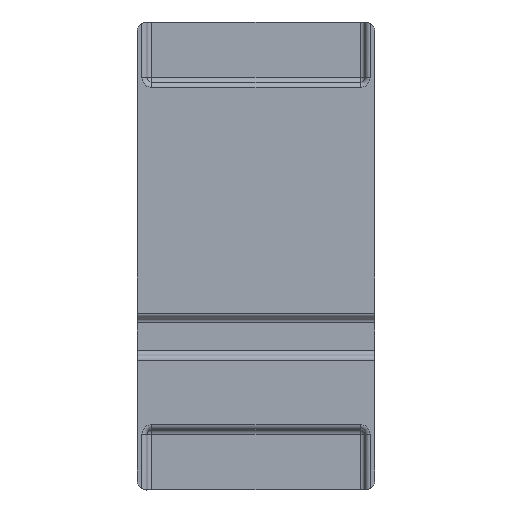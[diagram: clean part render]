
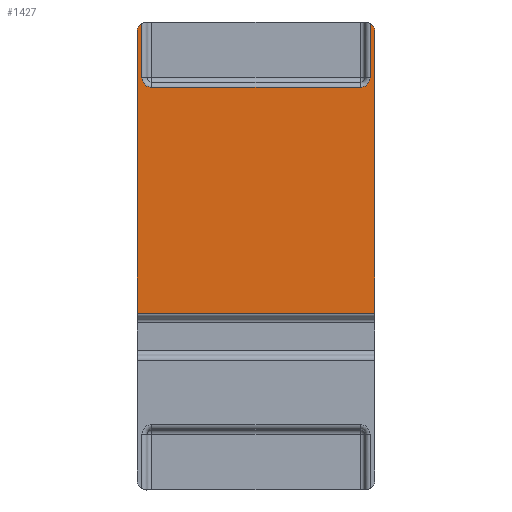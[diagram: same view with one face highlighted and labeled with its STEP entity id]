
A CAD part, front view. The second image highlights one B-rep face of the part: STEP entity #1427.
In plain terms, the highlighted planar face has unit normal (0, -1, 0).
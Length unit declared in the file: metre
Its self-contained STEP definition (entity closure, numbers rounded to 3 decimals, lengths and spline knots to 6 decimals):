
#72=CIRCLE('',#1571,0.004);
#73=CIRCLE('',#1572,0.004);
#74=CIRCLE('',#1573,0.004);
#75=CIRCLE('',#1574,0.004);
#348=ORIENTED_EDGE('',*,*,#680,.T.);
#349=ORIENTED_EDGE('',*,*,#708,.T.);
#350=ORIENTED_EDGE('',*,*,#709,.T.);
#351=ORIENTED_EDGE('',*,*,#710,.T.);
#352=ORIENTED_EDGE('',*,*,#642,.F.);
#353=ORIENTED_EDGE('',*,*,#711,.F.);
#354=ORIENTED_EDGE('',*,*,#622,.T.);
#355=ORIENTED_EDGE('',*,*,#712,.T.);
#356=ORIENTED_EDGE('',*,*,#713,.T.);
#357=ORIENTED_EDGE('',*,*,#714,.T.);
#622=EDGE_CURVE('',#831,#829,#961,.T.);
#642=EDGE_CURVE('',#846,#847,#972,.T.);
#680=EDGE_CURVE('',#876,#877,#994,.T.);
#708=EDGE_CURVE('',#877,#888,#72,.F.);
#709=EDGE_CURVE('',#888,#889,#1008,.F.);
#710=EDGE_CURVE('',#889,#847,#73,.T.);
#711=EDGE_CURVE('',#831,#846,#1009,.T.);
#712=EDGE_CURVE('',#829,#890,#74,.T.);
#713=EDGE_CURVE('',#890,#891,#1010,.T.);
#714=EDGE_CURVE('',#891,#876,#75,.F.);
#829=VERTEX_POINT('',#2220);
#831=VERTEX_POINT('',#2223);
#846=VERTEX_POINT('',#2259);
#847=VERTEX_POINT('',#2260);
#876=VERTEX_POINT('',#2332);
#877=VERTEX_POINT('',#2333);
#888=VERTEX_POINT('',#2389);
#889=VERTEX_POINT('',#2391);
#890=VERTEX_POINT('',#2395);
#891=VERTEX_POINT('',#2397);
#961=LINE('',#2222,#1089);
#972=LINE('',#2258,#1100);
#994=LINE('',#2331,#1122);
#1008=LINE('',#2390,#1136);
#1009=LINE('',#2393,#1137);
#1010=LINE('',#2396,#1138);
#1089=VECTOR('',#1738,1.);
#1100=VECTOR('',#1769,1.);
#1122=VECTOR('',#1833,1.);
#1136=VECTOR('',#1911,1.);
#1137=VECTOR('',#1914,1.);
#1138=VECTOR('',#1917,1.);
#1209=EDGE_LOOP('',(#348,#349,#350,#351,#352,#353,#354,#355,#356,#357));
#1303=FACE_BOUND('',#1209,.T.);
#1377=PLANE('',#1570);
#1427=ADVANCED_FACE('',(#1303),#1377,.T.);
#1570=AXIS2_PLACEMENT_3D('',#2387,#1907,#1908);
#1571=AXIS2_PLACEMENT_3D('',#2388,#1909,#1910);
#1572=AXIS2_PLACEMENT_3D('',#2392,#1912,#1913);
#1573=AXIS2_PLACEMENT_3D('',#2394,#1915,#1916);
#1574=AXIS2_PLACEMENT_3D('',#2398,#1918,#1919);
#1738=DIRECTION('',(0.,0.,1.));
#1769=DIRECTION('',(0.,0.,1.));
#1833=DIRECTION('',(-1.,0.,0.));
#1907=DIRECTION('',(0.,-1.,0.));
#1908=DIRECTION('',(0.,0.,-1.));
#1909=DIRECTION('',(0.,-1.,0.));
#1910=DIRECTION('',(0.,0.,-1.));
#1911=DIRECTION('',(0.,0.,-1.));
#1912=DIRECTION('',(0.,-1.,0.));
#1913=DIRECTION('',(0.,0.,-1.));
#1914=DIRECTION('',(-1.,0.,0.));
#1915=DIRECTION('',(0.,-1.,0.));
#1916=DIRECTION('',(0.,0.,-1.));
#1917=DIRECTION('',(0.,0.,-1.));
#1918=DIRECTION('',(0.,-1.,0.));
#1919=DIRECTION('',(0.,0.,-1.));
#2220=CARTESIAN_POINT('',(0.048,-0.08555,0.0904));
#2222=CARTESIAN_POINT('',(0.048,-0.08555,0.));
#2223=CARTESIAN_POINT('',(0.048,-0.08555,-0.023));
#2258=CARTESIAN_POINT('',(-0.048,-0.08555,0.));
#2259=CARTESIAN_POINT('',(-0.048,-0.08555,-0.023));
#2260=CARTESIAN_POINT('',(-0.048,-0.08555,0.0904));
#2331=CARTESIAN_POINT('',(0.048002,-0.08555,0.068));
#2332=CARTESIAN_POINT('',(0.042,-0.08555,0.068));
#2333=CARTESIAN_POINT('',(-0.042,-0.08555,0.068));
#2387=CARTESIAN_POINT('',(0.048002,-0.08555,0.));
#2388=CARTESIAN_POINT('',(-0.042,-0.08555,0.072));
#2389=CARTESIAN_POINT('',(-0.046,-0.08555,0.072));
#2390=CARTESIAN_POINT('',(-0.046,-0.08555,0.));
#2391=CARTESIAN_POINT('',(-0.046,-0.08555,0.093864));
#2392=CARTESIAN_POINT('',(-0.044,-0.08555,0.0904));
#2393=CARTESIAN_POINT('',(0.048002,-0.08555,-0.023));
#2394=CARTESIAN_POINT('',(0.044,-0.08555,0.0904));
#2395=CARTESIAN_POINT('',(0.046,-0.08555,0.093864));
#2396=CARTESIAN_POINT('',(0.046,-0.08555,0.068));
#2397=CARTESIAN_POINT('',(0.046,-0.08555,0.072));
#2398=CARTESIAN_POINT('',(0.042,-0.08555,0.072));
